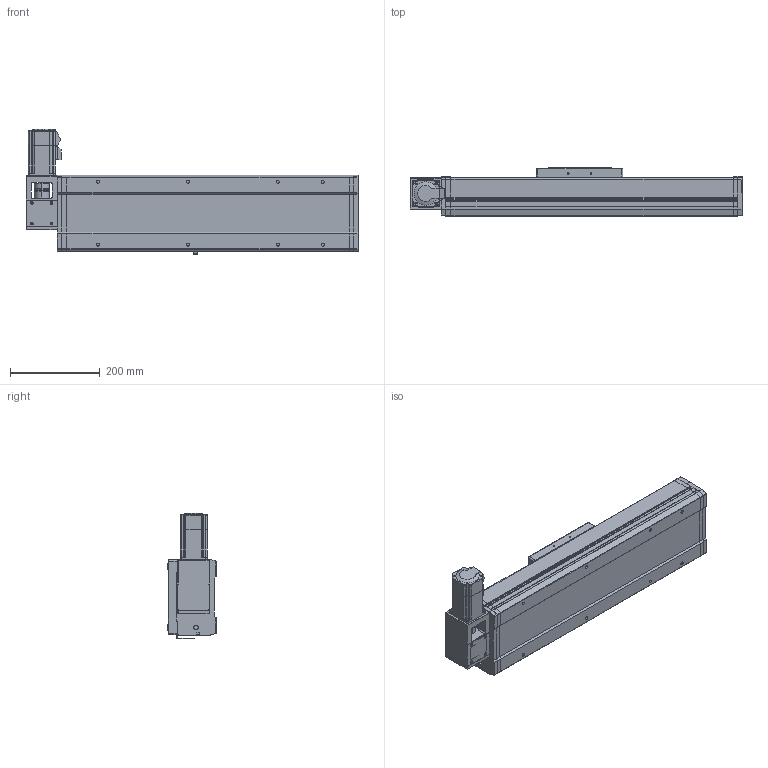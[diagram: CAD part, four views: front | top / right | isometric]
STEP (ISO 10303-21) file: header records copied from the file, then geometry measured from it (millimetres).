
FILE_DESCRIPTION((''),'2;1');
FILE_NAME('170-TZJ3FL-S350_ASM','2015-12-04T',('lenovo'),(''),'PRO/ENGINEER BY PARAMETRIC TECHNOLOGY CORPORATION, 2010280','PRO/ENGINEER BY PARAMETRIC TECHNOLOGY CORPORATION, 2010280','');
FILE_SCHEMA(('CONFIG_CONTROL_DESIGN'));
Length unit declared in the file: millimetre
Products named in the file (5): 170-TJFL-DZ; 170-HK; 170-HDB-01; 170-TZJ3FL-DJZ; 170-TZJ3FL-S350_ASM
Assembly tree (4 placements, depth 2):
  170-TZJ3FL-S350_ASM
    170-TJFL-DZ
    170-HK
    170-HDB-01
    170-TZJ3FL-DJZ
Bounding box: 739 x 107 x 278.5 mm (x, y, z)
Volume: 6005068 mm3; surface area: 959940 mm2
Topology: 6 solids, 30 shells, 1468 faces, 3997 edges, 2665 vertices
Faces by surface type: plane 788, cylinder 539, cone 113, torus 28
Entity records: 47099 total; most frequent: CARTESIAN_POINT 8413, DIRECTION 8260, ORIENTED_EDGE 7994, EDGE_CURVE 3997, AXIS2_PLACEMENT_3D 2828, VERTEX_POINT 2665, VECTOR 2604, LINE 2604
